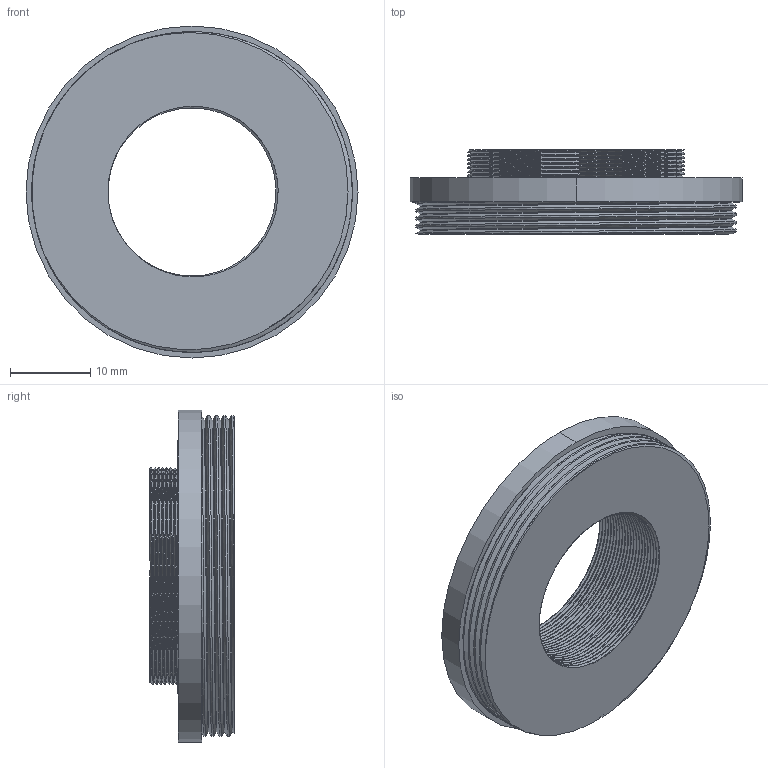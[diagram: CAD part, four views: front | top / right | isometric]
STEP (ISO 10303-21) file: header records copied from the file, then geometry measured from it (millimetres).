
FILE_DESCRIPTION (( 'STEP AP203' ), '1' );
FILE_NAME ('TPL-MOUNT-MTRING-CMOUNT.STEP', '2024-08-23T09:23:40', ( '' ), ( '' ), 'SwSTEP 2.0', 'SolidWorks 2024', '' );
FILE_SCHEMA (( 'CONFIG_CONTROL_DESIGN' ));
Length unit declared in the file: millimetre
Products named in the file (1): TPL-MOUNT-MTRING-CMOUNT
Bounding box: 41.5 x 10.5 x 41.5 mm (x, y, z)
Volume: 7217 mm3; surface area: 4813.5 mm2
Topology: 1 solids, 1 shells, 82 faces, 234 edges, 156 vertices
Faces by surface type: cylinder 69, bspline 9, plane 4
Entity records: 8004 total; most frequent: CARTESIAN_POINT 6260, ORIENTED_EDGE 468, DIRECTION 234, EDGE_CURVE 234, VERTEX_POINT 156, EDGE_LOOP 86, AXIS2_PLACEMENT_3D 84, FACE_OUTER_BOUND 82
